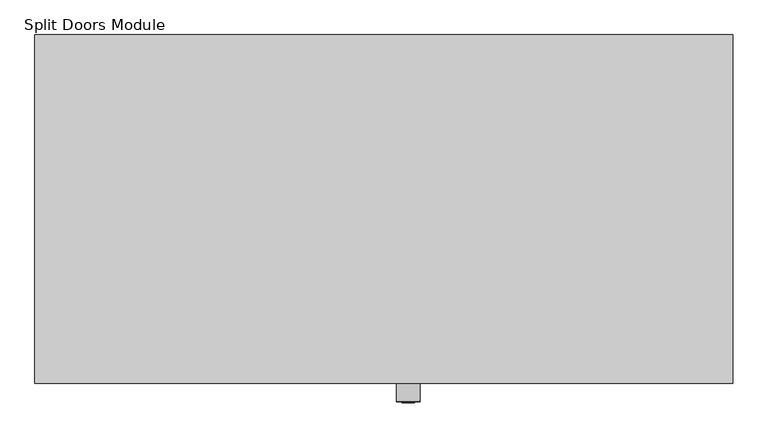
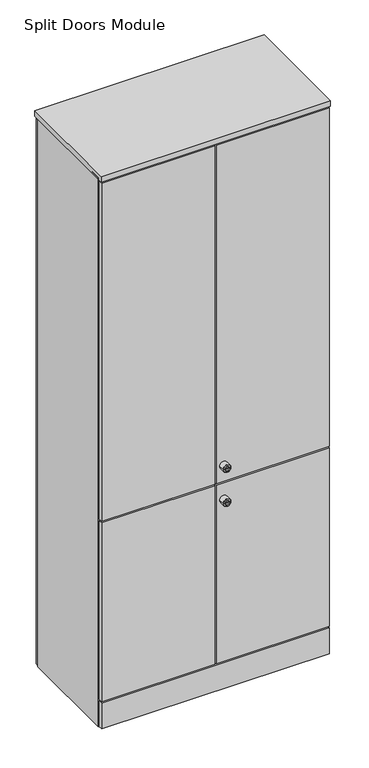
"""IFC4 building model written with IfcOpenShell, lengths in millimetres: furniture geometry, Furniture_Storage_Spacestor_SignatureStoragewall : Split Doors Module."""

from ifc_helpers import new_model, si_unit, point, frame, origin, origin_with_axes, place, context, project, spatial, polyline, circle_curve, ellipse_curve, trimmed, outline, extrude, source, transform, mapped, element, save
from ifc_brep_helpers import plane_surface, cylinder_surface, revolved_surface, advanced_brep


def split_doors_module_79d25c07(model_context):
    return source(origin(), model_context, "Body", "SolidModel", [
        extrude(outline(polyline([(996.5, 459.0), (3.5, 459.0), (3.5, 477.0), (996.5, 477.0), (996.5, 459.0)])), origin_with_axes(), (0.0, 0.0, 1.0), 2518.0),
        extrude(outline(polyline([(996.5, -18.0), (3.5, -18.0), (3.5, 0.0), (996.5, 0.0), (996.5, -18.0)])), origin_with_axes(), (0.0, 0.0, 1.0), 118.0),
        extrude(outline(polyline([(1000.0, -20.5), (0.0, -20.5), (0.0, 479.5), (1000.0, 479.5), (1000.0, -20.5)])), frame((0.0, 0.0, 2525.0), z_axis=(0.0, 0.0, 1.0), x_axis=(1.0, 0.0, 0.0)), (0.0, 0.0, 1.0), 25.5),
        extrude(outline(polyline([(1000.0, 0.0), (989.0, 0.0), (989.0, 459.0), (1000.0, 459.0), (1000.0, 0.0)])), origin_with_axes(), (0.0, 0.0, 1.0), 2532.5),
        extrude(outline(polyline([(11.0, 0.0), (0.0, 0.0), (0.0, 459.0), (11.0, 459.0), (11.0, 0.0)])), origin_with_axes(), (0.0, 0.0, 1.0), 2532.5),
        extrude(outline(polyline([(989.0, 0.0), (11.0, 0.0), (11.0, 459.0), (989.0, 459.0), (989.0, 0.0)])), frame((0.0, 0.0, 110.5), z_axis=(0.0, 0.0, 1.0), x_axis=(1.0, 0.0, 0.0)), (0.0, 0.0, 1.0), 22.0),
        extrude(outline(polyline([(989.0, 0.0), (11.0, 0.0), (11.0, 459.0), (989.0, 459.0), (989.0, 0.0)])), frame((0.0, 0.0, 2510.0), z_axis=(0.0, 0.0, 1.0), x_axis=(1.0, 0.0, 0.0)), (0.0, 0.0, 1.0), 22.0),
        extrude(outline(polyline([(989.0, 0.0), (11.0, 0.0), (11.0, 459.0), (989.0, 459.0), (989.0, 0.0)])), frame((0.0, 0.0, 942.5), z_axis=(0.0, 0.0, 1.0), x_axis=(1.0, 0.0, 0.0)), (0.0, 0.0, 1.0), 22.0),
        extrude(outline(polyline([(3.5, -18.0), (3.5, 0.0), (496.5, 0.0), (496.5, -18.0), (3.5, -18.0)])), frame((0.0, 0.0, 125.0), z_axis=(0.0, 0.0, 1.0), x_axis=(1.0, 0.0, 0.0)), (0.0, 0.0, 1.0), 825.0),
        extrude(outline(polyline([(3.5, -18.0), (3.5, 0.0), (496.5, 0.0), (496.5, -18.0), (3.5, -18.0)])), frame((0.0, 0.0, 957.0), z_axis=(0.0, 0.0, 1.0), x_axis=(1.0, 0.0, 0.0)), (0.0, 0.0, 1.0), 1561.0),
        extrude(outline(polyline([(996.5, -18.0), (503.5, -18.0), (503.5, 0.0), (996.5, 0.0), (996.5, -18.0)])), frame((0.0, 0.0, 957.0), z_axis=(0.0, 0.0, 1.0), x_axis=(1.0, 0.0, 0.0)), (0.0, 0.0, 1.0), 1561.0),
        extrude(outline(polyline([(996.5, -18.0), (503.5, -18.0), (503.5, 0.0), (996.5, 0.0), (996.5, -18.0)])), frame((0.0, 0.0, 125.0), z_axis=(0.0, 0.0, 1.0), x_axis=(1.0, 0.0, 0.0)), (0.0, 0.0, 1.0), 825.0),
        advanced_brep(
        [(552.0, -45.3116344, 1032.0), (518.0, -45.3116344, 1032.0), (518.0, -18.0, 1032.0), (552.0, -18.0, 1032.0), (535.0, -18.0, 1032.0), (543.9747319, -46.3150077, 1032.0), (526.0252681, -46.3150077, 1032.0), (519.0033734, -46.3150077, 1032.0), (550.9966266, -46.3150077, 1032.0), (543.9747319, -47.4703043, 1032.0), (526.0252681, -47.4703043, 1032.0), (539.8245152, -47.4703043, 1032.0), (539.8245152, -47.4703043, 1030.6366562), (530.1754848, -47.4703043, 1030.6366562), (530.1754848, -47.4703043, 1032.0), (530.1754848, -47.4703043, 1033.3633438), (539.8245152, -47.4703043, 1033.3633438), (530.1754848, -27.8604291, 1030.6366562), (539.8245152, -27.8604291, 1030.6366562), (539.8245152, -27.8604291, 1033.3633438), (530.1754848, -27.8604291, 1033.3633438)],
        [
            (0, 1, circle_curve(frame((535.0, -45.3116344, 1032.0), z_axis=(0.0, 1.0, 0.0), x_axis=(-1.0, 0.0, 0.0)), 17.0)),
            (1, 2),
            (2, 3, circle_curve(frame((535.0, -18.0, 1032.0), z_axis=(0.0, -1.0, 0.0), x_axis=(-1.0, 0.0, 0.0)), 17.0)),
            (3, 0),
            (1, 0, circle_curve(frame((535.0, -45.3116344, 1032.0), z_axis=(0.0, 1.0, 0.0), x_axis=(-1.0, 0.0, 0.0)), 17.0)),
            (3, 2, circle_curve(frame((535.0, -18.0, 1032.0), z_axis=(0.0, -1.0, 0.0), x_axis=(-1.0, 0.0, 0.0)), 17.0)),
            (2, 4),
            (4, 3),
            (5, 6, circle_curve(frame((535.0, -46.3150077, 1032.0), z_axis=(0.0, 1.0, 0.0), x_axis=(-1.0, 0.0, 0.0)), 8.9747319)),
            (6, 7),
            (7, 8, circle_curve(frame((535.0, -46.3150077, 1032.0), z_axis=(0.0, -1.0, 0.0), x_axis=(-1.0, 0.0, 0.0)), 15.9966266)),
            (8, 5),
            (6, 5, circle_curve(frame((535.0, -46.3150077, 1032.0), z_axis=(0.0, 1.0, 0.0), x_axis=(-1.0, 0.0, 0.0)), 8.9747319)),
            (8, 7, circle_curve(frame((535.0, -46.3150077, 1032.0), z_axis=(0.0, -1.0, 0.0), x_axis=(-1.0, 0.0, 0.0)), 15.9966266)),
            (0, 8, circle_curve(frame((550.9966266, -45.3116344, 1032.0), z_axis=(0.0, 0.0, -1.0), x_axis=(1.0, 0.0, 0.0)), 1.0033734)),
            (7, 1, circle_curve(frame((519.0033734, -45.3116344, 1032.0), z_axis=(0.0, 0.0, -1.0), x_axis=(-1.0, 0.0, 0.0)), 1.0033734)),
            (5, 9),
            (9, 10, circle_curve(frame((535.0, -47.4703043, 1032.0), z_axis=(0.0, 1.0, 0.0), x_axis=(-1.0, 0.0, 0.0)), 8.9747319)),
            (10, 6),
            (10, 9, circle_curve(frame((535.0, -47.4703043, 1032.0), z_axis=(0.0, 1.0, 0.0), x_axis=(-1.0, 0.0, 0.0)), 8.9747319)),
            (9, 11),
            (11, 12),
            (12, 13),
            (13, 14),
            (14, 10),
            (14, 15),
            (15, 16),
            (16, 11),
            (17, 18),
            (18, 19),
            (19, 20),
            (20, 17),
            (17, 13),
            (12, 18),
            (16, 19),
            (15, 20),
        ],
        [
            cylinder_surface(frame((535.0, -2627.0581012, 1032.0), z_axis=(0.0, -1.0, 0.0), x_axis=(-1.0, 0.0, 0.0)), 17.0),
            plane_surface(frame((535.0, -18.0, 1032.0), z_axis=(0.0, 1.0, 0.0), x_axis=(-1.0, 0.0, 0.0))),
            plane_surface(frame((535.0, -46.3150077, 1032.0), z_axis=(0.0, -1.0, 0.0), x_axis=(-1.0, 0.0, 0.0))),
            revolved_surface(trimmed(ellipse_curve(frame((519.0033734, -45.3116344, 1032.0), z_axis=(0.0, 0.0, 1.0), x_axis=(-1.0, 0.0, 0.0)), 1.0033734, 1.0033734), [point((518.0, -45.3116344, 1032.0))], [point((519.0033734, -46.3150077, 1032.0))], True, "CARTESIAN"), (535.0, -2627.0581012, 1032.0), (0.0, -1.0, 0.0)),
            cylinder_surface(frame((535.0, -2627.0581012, 1032.0), z_axis=(0.0, -1.0, 0.0), x_axis=(-1.0, 0.0, 0.0)), 8.9747319),
            plane_surface(frame((535.0, -47.4703043, 1032.0), z_axis=(0.0, -1.0, 0.0), x_axis=(-1.0, 0.0, 0.0))),
            plane_surface(frame((539.4565249, -27.8604291, 1030.6366562), z_axis=(0.0, -1.0, 0.0), x_axis=(-1.0, 0.0, 0.0))),
            plane_surface(frame((530.1754848, -49.2046383, 1030.6366562), z_axis=(0.0, 0.0, 1.0), x_axis=(0.0, 1.0, 0.0))),
            plane_surface(frame((539.8245152, -49.2046383, 1030.6366562), z_axis=(-1.0, 0.0, 0.0), x_axis=(0.0, 1.0, 0.0))),
            plane_surface(frame((539.8245152, -49.2046383, 1033.3633438), z_axis=(0.0, 0.0, -1.0), x_axis=(0.0, 1.0, 0.0))),
            plane_surface(frame((530.1754848, -49.2046383, 1033.3633438), z_axis=(1.0, 0.0, 0.0), x_axis=(0.0, 1.0, 0.0))),
        ],
        [
            (0, [[1, 2, 3, 4]]),
            (0, [[-2, 5, -4, 6]]),
            (1, [[-3, 7, 8]]),
            (1, [[-6, -8, -7]]),
            (2, [[9, 10, 11, 12]]),
            (2, [[-10, 13, -12, 14]]),
            (3, [[-1, 15, -11, 16]]),
            (3, [[-5, -16, -14, -15]]),
            (4, [[-9, 17, 18, 19]]),
            (4, [[-13, -19, 20, -17]]),
            (5, [[-18, 21, 22, 23, 24, 25]]),
            (5, [[-20, -25, 26, 27, 28, -21]]),
            (6, [[29, 30, 31, 32]]),
            (7, [[-29, 33, -23, 34]]),
            (8, [[-30, -34, -22, -28, 35]]),
            (9, [[-31, -35, -27, 36]]),
            (10, [[-32, -36, -26, -24, -33]]),
        ],
    ),
        advanced_brep(
        [(552.0, -45.3116344, 875.0), (518.0, -45.3116344, 875.0), (518.0, -18.0, 875.0), (552.0, -18.0, 875.0), (535.0, -18.0, 875.0), (543.9747319, -46.3150077, 875.0), (526.0252681, -46.3150077, 875.0), (519.0033734, -46.3150077, 875.0), (550.9966266, -46.3150077, 875.0), (543.9747319, -47.4703043, 875.0), (526.0252681, -47.4703043, 875.0), (539.8245152, -47.4703043, 875.0), (539.8245152, -47.4703043, 873.6366562), (530.1754848, -47.4703043, 873.6366562), (530.1754848, -47.4703043, 875.0), (530.1754848, -47.4703043, 876.3633438), (539.8245152, -47.4703043, 876.3633438), (530.1754848, -27.8604291, 873.6366562), (539.8245152, -27.8604291, 873.6366562), (539.8245152, -27.8604291, 876.3633438), (530.1754848, -27.8604291, 876.3633438)],
        [
            (0, 1, circle_curve(frame((535.0, -45.3116344, 875.0), z_axis=(0.0, 1.0, 0.0), x_axis=(-1.0, 0.0, 0.0)), 17.0)),
            (1, 2),
            (2, 3, circle_curve(frame((535.0, -18.0, 875.0), z_axis=(0.0, -1.0, 0.0), x_axis=(-1.0, 0.0, 0.0)), 17.0)),
            (3, 0),
            (1, 0, circle_curve(frame((535.0, -45.3116344, 875.0), z_axis=(0.0, 1.0, 0.0), x_axis=(-1.0, 0.0, 0.0)), 17.0)),
            (3, 2, circle_curve(frame((535.0, -18.0, 875.0), z_axis=(0.0, -1.0, 0.0), x_axis=(-1.0, 0.0, 0.0)), 17.0)),
            (2, 4),
            (4, 3),
            (5, 6, circle_curve(frame((535.0, -46.3150077, 875.0), z_axis=(0.0, 1.0, 0.0), x_axis=(-1.0, 0.0, 0.0)), 8.9747319)),
            (6, 7),
            (7, 8, circle_curve(frame((535.0, -46.3150077, 875.0), z_axis=(0.0, -1.0, 0.0), x_axis=(-1.0, 0.0, 0.0)), 15.9966266)),
            (8, 5),
            (6, 5, circle_curve(frame((535.0, -46.3150077, 875.0), z_axis=(0.0, 1.0, 0.0), x_axis=(-1.0, 0.0, 0.0)), 8.9747319)),
            (8, 7, circle_curve(frame((535.0, -46.3150077, 875.0), z_axis=(0.0, -1.0, 0.0), x_axis=(-1.0, 0.0, 0.0)), 15.9966266)),
            (0, 8, circle_curve(frame((550.9966266, -45.3116344, 875.0), z_axis=(0.0, 0.0, -1.0), x_axis=(1.0, 0.0, 0.0)), 1.0033734)),
            (7, 1, circle_curve(frame((519.0033734, -45.3116344, 875.0), z_axis=(0.0, 0.0, -1.0), x_axis=(-1.0, 0.0, 0.0)), 1.0033734)),
            (5, 9),
            (9, 10, circle_curve(frame((535.0, -47.4703043, 875.0), z_axis=(0.0, 1.0, 0.0), x_axis=(-1.0, 0.0, 0.0)), 8.9747319)),
            (10, 6),
            (10, 9, circle_curve(frame((535.0, -47.4703043, 875.0), z_axis=(0.0, 1.0, 0.0), x_axis=(-1.0, 0.0, 0.0)), 8.9747319)),
            (9, 11),
            (11, 12),
            (12, 13),
            (13, 14),
            (14, 10),
            (14, 15),
            (15, 16),
            (16, 11),
            (17, 18),
            (18, 19),
            (19, 20),
            (20, 17),
            (17, 13),
            (12, 18),
            (16, 19),
            (15, 20),
        ],
        [
            cylinder_surface(frame((535.0, -2627.0581012, 875.0), z_axis=(0.0, -1.0, 0.0), x_axis=(-1.0, 0.0, 0.0)), 17.0),
            plane_surface(frame((535.0, -18.0, 875.0), z_axis=(0.0, 1.0, 0.0), x_axis=(-1.0, 0.0, 0.0))),
            plane_surface(frame((535.0, -46.3150077, 875.0), z_axis=(0.0, -1.0, 0.0), x_axis=(-1.0, 0.0, 0.0))),
            revolved_surface(trimmed(ellipse_curve(frame((519.0033734, -45.3116344, 875.0), z_axis=(0.0, 0.0, 1.0), x_axis=(-1.0, 0.0, 0.0)), 1.0033734, 1.0033734), [point((518.0, -45.3116344, 875.0))], [point((519.0033734, -46.3150077, 875.0))], True, "CARTESIAN"), (535.0, -2627.0581012, 875.0), (0.0, -1.0, 0.0)),
            cylinder_surface(frame((535.0, -2627.0581012, 875.0), z_axis=(0.0, -1.0, 0.0), x_axis=(-1.0, 0.0, 0.0)), 8.9747319),
            plane_surface(frame((535.0, -47.4703043, 875.0), z_axis=(0.0, -1.0, 0.0), x_axis=(-1.0, 0.0, 0.0))),
            plane_surface(frame((539.4565249, -27.8604291, 873.6366562), z_axis=(0.0, -1.0, 0.0), x_axis=(-1.0, 0.0, 0.0))),
            plane_surface(frame((530.1754848, -49.2046383, 873.6366562), z_axis=(0.0, 0.0, 1.0), x_axis=(0.0, 1.0, 0.0))),
            plane_surface(frame((539.8245152, -49.2046383, 873.6366562), z_axis=(-1.0, 0.0, 0.0), x_axis=(0.0, 1.0, 0.0))),
            plane_surface(frame((539.8245152, -49.2046383, 876.3633438), z_axis=(0.0, 0.0, -1.0), x_axis=(0.0, 1.0, 0.0))),
            plane_surface(frame((530.1754848, -49.2046383, 876.3633438), z_axis=(1.0, 0.0, 0.0), x_axis=(0.0, 1.0, 0.0))),
        ],
        [
            (0, [[1, 2, 3, 4]]),
            (0, [[-2, 5, -4, 6]]),
            (1, [[-3, 7, 8]]),
            (1, [[-6, -8, -7]]),
            (2, [[9, 10, 11, 12]]),
            (2, [[-10, 13, -12, 14]]),
            (3, [[-1, 15, -11, 16]]),
            (3, [[-5, -16, -14, -15]]),
            (4, [[-9, 17, 18, 19]]),
            (4, [[-13, -19, 20, -17]]),
            (5, [[-18, 21, 22, 23, 24, 25]]),
            (5, [[-20, -25, 26, 27, 28, -21]]),
            (6, [[29, 30, 31, 32]]),
            (7, [[-29, 33, -23, 34]]),
            (8, [[-30, -34, -22, -28, 35]]),
            (9, [[-31, -35, -27, 36]]),
            (10, [[-32, -36, -26, -24, -33]]),
        ],
    ),
    ])


if __name__ == "__main__":
    model = new_model("IFC4")
    model_context = context("Model", 3, world=origin())
    ifc_project = project(units=[si_unit("LENGTHUNIT", "METRE", prefix="MILLI")], contexts=[model_context])
    site = spatial("IfcSite", under=ifc_project)
    building = spatial("IfcBuilding", under=site)
    placement = place(None, origin())
    split_doors_module_shape = split_doors_module_79d25c07(model_context)
    element("IfcFurniture", 1, ObjectType="Furniture_Storage_Spacestor_SignatureStoragewall : Split Doors Module", at=placement, inside=building, context=model_context, shape_type="MappedRepresentation", body=[
        mapped(split_doors_module_shape, transform((0.0, 0.0, 0.0), x_axis=(1.0, 0.0, 0.0), y_axis=(0.0, 1.0, 0.0), z_axis=(0.0, 0.0, 1.0))),
    ])
    save(model, "model.ifc")
